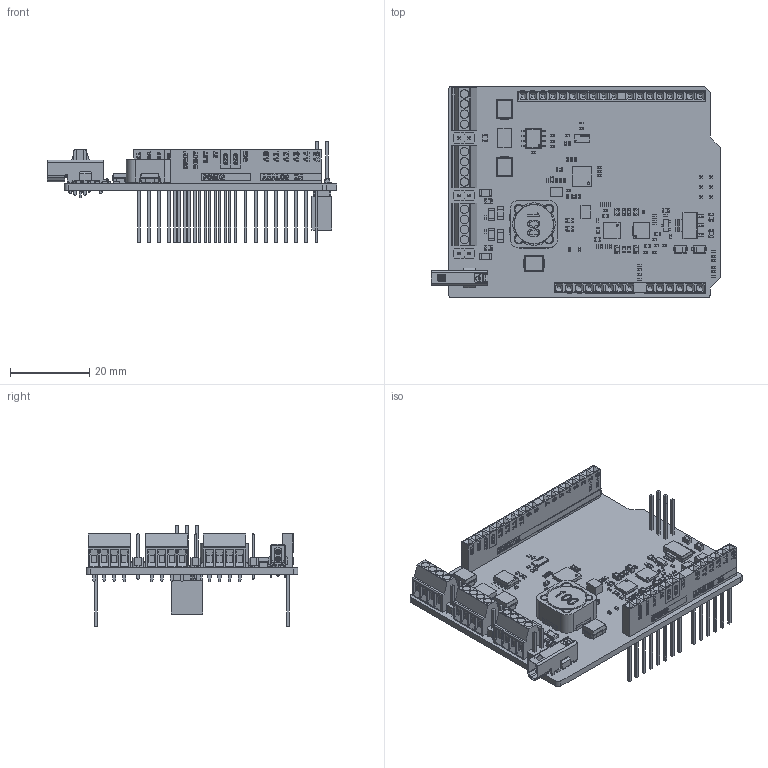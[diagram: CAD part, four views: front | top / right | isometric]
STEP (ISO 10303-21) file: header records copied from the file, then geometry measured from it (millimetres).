
FILE_DESCRIPTION(('Open CASCADE Model'),'2;1');
FILE_NAME('Open CASCADE Shape Model','2025-02-28T12:35:27',('Author'),( 'Open CASCADE'),'Open CASCADE STEP processor 7.5','Open CASCADE 7.5' ,'Unknown');
FILE_SCHEMA(('AUTOMOTIVE_DESIGN { 1 0 10303 214 1 1 1 1 }'));
Length unit declared in the file: millimetre
Products named in the file (202): PCB; Board; Open CASCADE STEP translator 7.5 1.1.1; C6; CAP-0402; C23; C7; C25; C29; R41; res_1206; R27; J6; pxc_1163797_01_01_SPE-T1-STRM-90_3D; SPE-STRM-90-BG; F3; 1201116832; Extruded; F1; U1; IC_Texas_Instruments_TXB0108DQSR_eec; Part15; Part16; Part16_MIR; Part16_MIR1; Part16 - Copy; R35; RES-0402; R33; R32; R40_2; R40_1; R39_2; R39_1; R38_2; RES-0603; R38_1; R37_2; R37_1; R36_2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
Assembly tree (383 placements, depth 6):
  PCB
    Board
      Open CASCADE STEP translator 7.5 1.1.1
    C6
      CAP-0402
    C23
      CAP-0402
    C7
      CAP-0402
    C25
      CAP-0402
    C29
      CAP-0402
    R41
      res_1206
    R27
      res_1206
    J6
      pxc_1163797_01_01_SPE-T1-STRM-90_3D
        SPE-STRM-90-BG
    F3
      1201116832
        Extruded
    F1
      1201116832
        Extruded
    U1
      IC_Texas_Instruments_TXB0108DQSR_eec
        Part15
        Part16  x9
        Part16_MIR  x2
        Part16_MIR1  x8
        Part16 - Copy
    R35
      RES-0402
    R33
      RES-0402
    R32
      RES-0402
    R40_2
      RES-0402
    R40_1
      RES-0402
    R39_2
      RES-0402
    R39_1
      RES-0402
    R38_2
      RES-0603
    R38_1
      RES-0603
    R37_2
      RES-0402
    R37_1
      RES-0402
    R36_2
      RES-0402
    R36_1
      RES-0402
    R31
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Bounding box: 72.78 x 53.34 x 25.65 mm (x, y, z)
Volume: 8655.4 mm3; surface area: 17975.1 mm2
Topology: 449 solids, 590 shells, 9993 faces, 24523 edges, 15255 vertices
Faces by surface type: plane 6532, bspline 1585, cylinder 1532, sphere 326, cone 18
Full cylindrical faces by diameter (mm): 0.326 x1, 0.5 x1, 0.512 x2, 0.625 x1
Entity records: 173681 total; most frequent: CARTESIAN_POINT 60124, ORIENTED_EDGE 24908, DIRECTION 13163, EDGE_CURVE 12888, B_SPLINE_CURVE_WITH_KNOTS 8641, VERTEX_POINT 8419, FACE_BOUND 5467, EDGE_LOOP 5467
